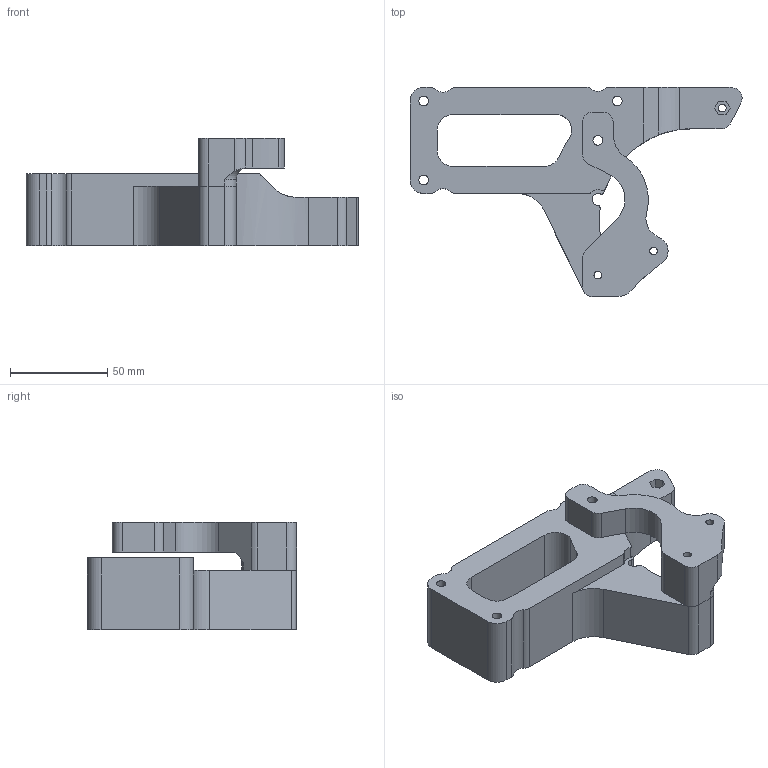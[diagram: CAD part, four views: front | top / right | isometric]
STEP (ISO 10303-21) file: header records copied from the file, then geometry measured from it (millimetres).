
FILE_DESCRIPTION(/* description */ ('CAx-IF Rec.Pracs.---Representation and Presentation of Product Manufacturing Information (PMI)---4.0---2014-10-13','CAx-IF Rec.Pracs.---3D Tessellated Geometry---0.4---2014-09-14','2;1'),/* implementation_level */ '2;1');
FILE_NAME(/* name */ 'qc1_p82',/* time_stamp */ '2026-07-25T07:47:34+03:00',/* author */ (''),/* organization */ (''),/* preprocessor_version */ 'ST-DEVELOPER v19.4',/* originating_system */ 'SIEMENS PLM Software NX2306.1700',/* authorisation */ $);
FILE_SCHEMA (('AP242_MANAGED_MODEL_BASED_3D_ENGINEERING_MIM_LF { 1 0 10303 442 3 1 4 }'));
Length unit declared in the file: millimetre
Products named in the file (1): qc1_p82
Bounding box: 170.91 x 107.66 x 55.1 mm (x, y, z)
Volume: 260628 mm3; surface area: 49997.6 mm2
Topology: 2 solids, 2 shells, 109 faces, 305 edges, 204 vertices
Faces by surface type: cylinder 55, plane 51, torus 3
Full cylindrical faces by diameter (mm): 4.01 x4, 5.01 x5, 10 x1
Entity records: 3538 total; most frequent: DIRECTION 622, CARTESIAN_POINT 617, ORIENTED_EDGE 582, EDGE_CURVE 291, AXIS2_PLACEMENT_3D 226, VERTEX_POINT 200, LINE 170, VECTOR 170
